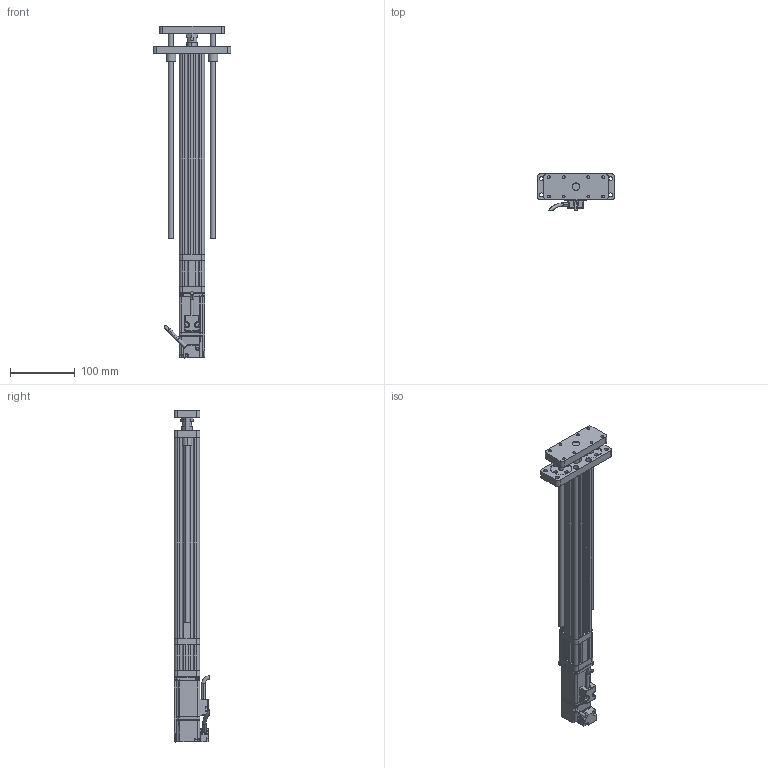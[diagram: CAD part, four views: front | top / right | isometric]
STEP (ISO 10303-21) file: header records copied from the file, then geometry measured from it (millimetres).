
FILE_DESCRIPTION (( 'STEP AP214' ), '1' );
FILE_NAME ('039-S250-D02-A-M3-C5-2.STEP', '2021-03-02T05:47:02', ( '' ), ( '' ), 'SwSTEP 2.0', 'SolidWorks 2018', '' );
FILE_SCHEMA (( 'AUTOMOTIVE_DESIGN' ));
Length unit declared in the file: millimetre
Products named in the file (12): 039-S250-D02-A-M3-C5-2; CMC039-DB; CMC039-ZLLJB; CMC039-GT; CMC039-DJZ; CMC039-DZ; LME01-d8; CMC039-FL; CMC039-DT; CMC039-AZB; ECMA-CX0401ES-40框號系列機種-100W低慣量系列; GB／T6172．1-2000六角薄螺母A级和B级M12
Assembly tree (13 placements, depth 2):
  039-S250-D02-A-M3-C5-2
    CMC039-GT
    CMC039-FL
    CMC039-DT
    LME01-d8  x2
    CMC039-DB
    GB／T6172．1-2000六角薄螺母A级和B级M12
    CMC039-DZ  x2
    CMC039-AZB
    CMC039-DJZ
    CMC039-ZLLJB
    ECMA-CX0401ES-40框號系列機種-100W低慣量系列
Bounding box: 120 x 55.39 x 513.6 mm (x, y, z)
Volume: 623038.9 mm3; surface area: 211513.7 mm2
Topology: 13 solids, 21 shells, 867 faces, 2244 edges, 1415 vertices
Faces by surface type: cylinder 384, plane 328, bspline 88, cone 67
Entity records: 32022 total; most frequent: CARTESIAN_POINT 11934, ORIENTED_EDGE 4230, DIRECTION 3647, EDGE_CURVE 2115, VERTEX_POINT 1356, AXIS2_PLACEMENT_3D 1292, VECTOR 1063, LINE 1063
